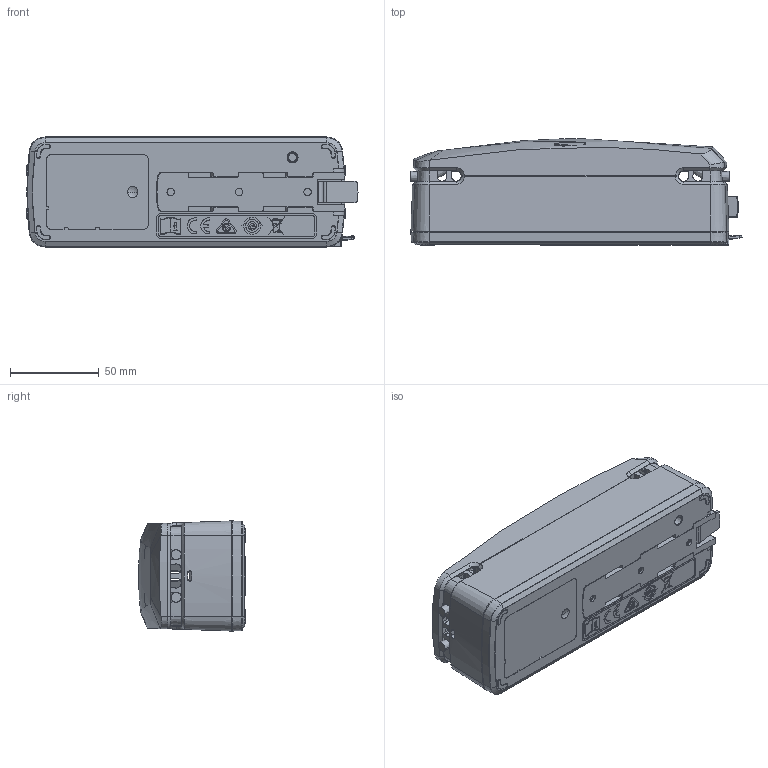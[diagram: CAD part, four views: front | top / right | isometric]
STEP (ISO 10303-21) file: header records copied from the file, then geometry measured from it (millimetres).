
FILE_DESCRIPTION((''),'2;1');
FILE_NAME('1038W4004_ASM','2019-05-24T22:20:37',('ti'),(''),'CREO PARAMETRIC BY PTC INC, 2018400','CREO PARAMETRIC BY PTC INC, 2018400','');
FILE_SCHEMA(('AUTOMOTIVE_DESIGN { 1 0 10303 214 1 1 1 1 }'));
Length unit declared in the file: millimetre
Products named in the file (6): 1038W4004-PJ2-BODY; 1038W4004-PJ2-PLUGS; 1038W4004-PJ2-LID; 1038W4004-PJ2-BRACKET-BOTTOM; 1038W4004-PJ2-BRACKET-SIDE; 1038W4004_ASM
Assembly tree (5 placements, depth 2):
  1038W4004_ASM
    1038W4004-PJ2-BODY
    1038W4004-PJ2-PLUGS
    1038W4004-PJ2-LID
    1038W4004-PJ2-BRACKET-BOTTOM
    1038W4004-PJ2-BRACKET-SIDE
Bounding box: 186.83 x 60.02 x 61.98 mm (x, y, z)
Volume: 454518.3 mm3; surface area: 120458.8 mm2
Topology: 8 solids, 8 shells, 4211 faces, 10911 edges, 6814 vertices
Faces by surface type: plane 1359, cylinder 1045, bspline 726, torus 670, cone 338, sphere 57, revolution 9, extrusion 7
Entity records: 176439 total; most frequent: CARTESIAN_POINT 79501, ORIENTED_EDGE 21710, DIRECTION 18106, EDGE_CURVE 10855, VERTEX_POINT 6814, AXIS2_PLACEMENT_3D 6699, VECTOR 4699, LINE 4692
